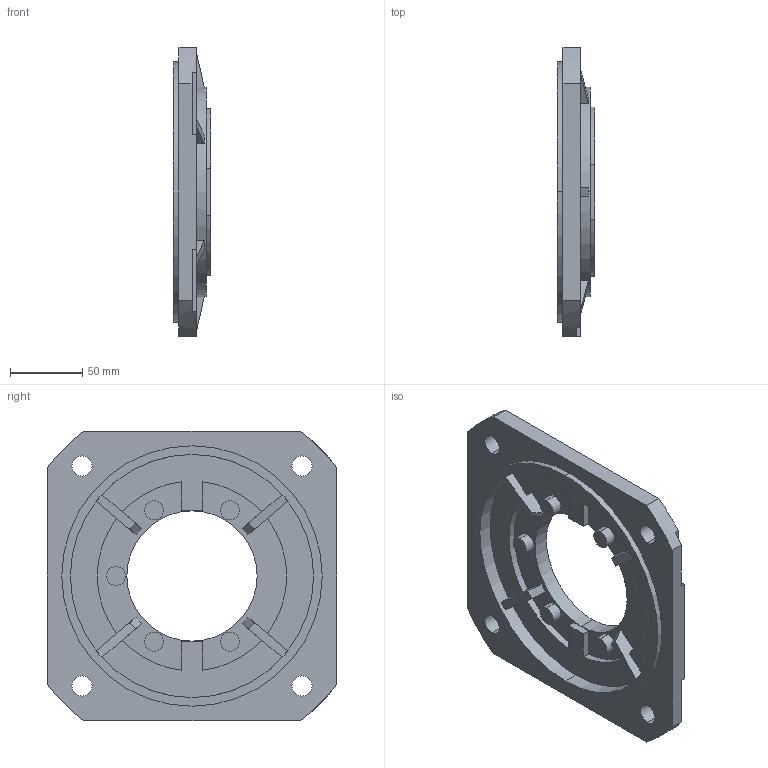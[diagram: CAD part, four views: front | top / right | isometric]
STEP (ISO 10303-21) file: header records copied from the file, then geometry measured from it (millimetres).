
FILE_DESCRIPTION(/* description */ (''),/* implementation_level */ '2;1');
FILE_NAME(/* name */ '1_FLANGIA (CAMPANA) LATERALE FA H052',/* time_stamp */ '2025-10-31T14:16:09+01:00',/* author */ (''),/* organization */ (''),/* preprocessor_version */ 'ST-DEVELOPER v19.2',/* originating_system */ 'Rhino 8.23',/* authorisation */ '');
FILE_SCHEMA (('CONFIG_CONTROL_DESIGN'));
Length unit declared in the file: millimetre
Products named in the file (2): Document; FU052FA-14
Bounding box: 26 x 200.14 x 200.14 mm (x, y, z)
Volume: 367062.8 mm3; surface area: 96399.2 mm2
Topology: 1 solids, 1 shells, 109 faces, 294 edges, 196 vertices
Faces by surface type: plane 63, cylinder 40, bspline 6
Entity records: 4654 total; most frequent: CARTESIAN_POINT 1139, ORIENTED_EDGE 588, DIRECTION 319, EDGE_CURVE 294, AXIS2_PLACEMENT_3D 211, VERTEX_POINT 196, B_SPLINE_CURVE_WITH_KNOTS 186, EDGE_LOOP 128
